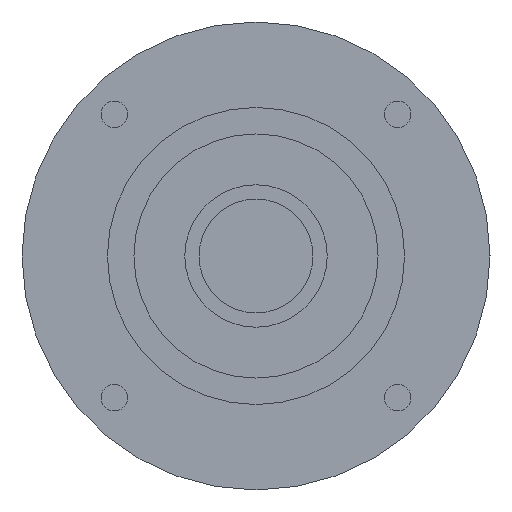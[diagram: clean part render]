
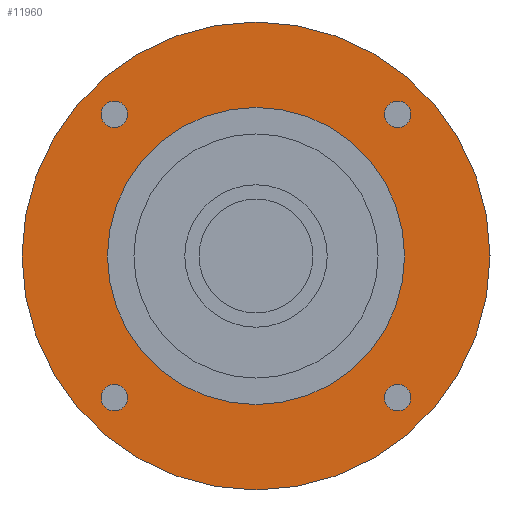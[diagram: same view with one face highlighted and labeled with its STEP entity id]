
A CAD part, left-side view. The second image highlights one B-rep face of the part: STEP entity #11960.
In plain terms, the highlighted planar face has unit normal (-1, 0, 0) as drawn and (0, 0, -1) by its records, which use the part's own axes.
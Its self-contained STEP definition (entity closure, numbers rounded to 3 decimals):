
#10800=CARTESIAN_POINT('',(-57.5,0.,-65.601));
#10810=VERTEX_POINT('',#10800);
#10840=CARTESIAN_POINT('',(0.,0.,
-65.601));
#10850=DIRECTION('',(0.,0.,-1.));
#10860=DIRECTION('',(0.,-1.,0.));
#10870=AXIS2_PLACEMENT_3D('',#10840,#10850,#10860);
#10880=CIRCLE('',#10870,57.5);
#10890=CARTESIAN_POINT('',(57.5,0.,-65.601));
#10900=VERTEX_POINT('',#10890);
#10910=EDGE_CURVE('',#10810,#10900,#10880,.T.);
#11030=CARTESIAN_POINT('',(0.,0.,
-65.601));
#11040=DIRECTION('',(0.,0.,-1.));
#11050=DIRECTION('',(1.,0.,0.));
#11060=AXIS2_PLACEMENT_3D('',#11030,#11040,#11050);
#11070=PLANE('',#11060);
#11080=CARTESIAN_POINT('',(34.797,34.797,-65.601));
#11090=DIRECTION('',(0.,0.,-1.));
#11100=DIRECTION('',(0.,1.,0.));
#11110=AXIS2_PLACEMENT_3D('',#11080,#11090,#11100);
#11120=CIRCLE('',#11110,3.25);
#11130=CARTESIAN_POINT('',(34.797,38.047,-65.601));
#11140=VERTEX_POINT('',#11130);
#11150=CARTESIAN_POINT('',(34.797,31.547,-65.601));
#11160=VERTEX_POINT('',#11150);
#11170=EDGE_CURVE('',#11140,#11160,#11120,.T.);
#11180=ORIENTED_EDGE('',*,*,#11170,.F.);
#11190=EDGE_CURVE('',#11160,#11140,#11120,.T.);
#11200=ORIENTED_EDGE('',*,*,#11190,.F.);
#11210=EDGE_LOOP('',(#11200,#11180));
#11220=FACE_BOUND('',#11210,.T.);
#11230=CARTESIAN_POINT('',(-34.797,34.797,-65.601));
#11240=DIRECTION('',(0.,0.,-1.));
#11250=DIRECTION('',(-1.,0.,0.));
#11260=AXIS2_PLACEMENT_3D('',#11230,#11240,#11250);
#11270=CIRCLE('',#11260,3.25);
#11280=CARTESIAN_POINT('',(-38.047,34.797,-65.601));
#11290=VERTEX_POINT('',#11280);
#11300=CARTESIAN_POINT('',(-31.547,34.797,-65.601));
#11310=VERTEX_POINT('',#11300);
#11320=EDGE_CURVE('',#11290,#11310,#11270,.T.);
#11330=ORIENTED_EDGE('',*,*,#11320,.F.);
#11340=EDGE_CURVE('',#11310,#11290,#11270,.T.);
#11350=ORIENTED_EDGE('',*,*,#11340,.F.);
#11360=EDGE_LOOP('',(#11350,#11330));
#11370=FACE_BOUND('',#11360,.T.);
#11380=CARTESIAN_POINT('',(-34.797,-34.797,-65.601));
#11390=DIRECTION('',(0.,0.,-1.));
#11400=DIRECTION('',(0.,-1.,0.));
#11410=AXIS2_PLACEMENT_3D('',#11380,#11390,#11400);
#11420=CIRCLE('',#11410,3.25);
#11430=CARTESIAN_POINT('',(-34.797,-38.047,-65.601));
#11440=VERTEX_POINT('',#11430);
#11450=CARTESIAN_POINT('',(-34.797,-31.547,-65.601));
#11460=VERTEX_POINT('',#11450);
#11470=EDGE_CURVE('',#11440,#11460,#11420,.T.);
#11480=ORIENTED_EDGE('',*,*,#11470,.F.);
#11490=EDGE_CURVE('',#11460,#11440,#11420,.T.);
#11500=ORIENTED_EDGE('',*,*,#11490,.F.);
#11510=EDGE_LOOP('',(#11500,#11480));
#11520=FACE_BOUND('',#11510,.T.);
#11530=CARTESIAN_POINT('',(0.,0.,
-65.601));
#11540=DIRECTION('',(0.,0.,1.));
#11550=DIRECTION('',(0.,1.,0.));
#11560=AXIS2_PLACEMENT_3D('',#11530,#11540,#11550);
#11570=CIRCLE('',#11560,36.51);
#11580=CARTESIAN_POINT('',(-36.51,0.,-65.601));
#11590=VERTEX_POINT('',#11580);
#11600=CARTESIAN_POINT('',(36.51,0.,-65.601));
#11610=VERTEX_POINT('',#11600);
#11620=EDGE_CURVE('',#11590,#11610,#11570,.T.);
#11630=ORIENTED_EDGE('',*,*,#11620,.T.);
#11640=CARTESIAN_POINT('',(0.,36.51,-65.601));
#11650=VERTEX_POINT('',#11640);
#11660=EDGE_CURVE('',#11650,#11590,#11570,.T.);
#11670=ORIENTED_EDGE('',*,*,#11660,.T.);
#11680=EDGE_CURVE('',#11610,#11650,#11570,.T.);
#11690=ORIENTED_EDGE('',*,*,#11680,.T.);
#11700=EDGE_LOOP('',(#11690,#11670,#11630));
#11710=FACE_BOUND('',#11700,.T.);
#11720=CARTESIAN_POINT('',(34.797,-34.797,-65.601));
#11730=DIRECTION('',(0.,0.,-1.));
#11740=DIRECTION('',(1.,0.,0.));
#11750=AXIS2_PLACEMENT_3D('',#11720,#11730,#11740);
#11760=CIRCLE('',#11750,3.25);
#11770=CARTESIAN_POINT('',(38.047,-34.797,-65.601));
#11780=VERTEX_POINT('',#11770);
#11790=CARTESIAN_POINT('',(31.547,-34.797,-65.601));
#11800=VERTEX_POINT('',#11790);
#11810=EDGE_CURVE('',#11780,#11800,#11760,.T.);
#11820=ORIENTED_EDGE('',*,*,#11810,.F.);
#11830=EDGE_CURVE('',#11800,#11780,#11760,.T.);
#11840=ORIENTED_EDGE('',*,*,#11830,.F.);
#11850=EDGE_LOOP('',(#11840,#11820));
#11860=FACE_BOUND('',#11850,.T.);
#11870=ORIENTED_EDGE('',*,*,#10910,.T.);
#11880=CARTESIAN_POINT('',(0.,-57.5,-65.601));
#11890=VERTEX_POINT('',#11880);
#11900=EDGE_CURVE('',#11890,#10810,#10880,.T.);
#11910=ORIENTED_EDGE('',*,*,#11900,.T.);
#11920=EDGE_CURVE('',#10900,#11890,#10880,.T.);
#11930=ORIENTED_EDGE('',*,*,#11920,.T.);
#11940=EDGE_LOOP('',(#11930,#11910,#11870));
#11950=FACE_OUTER_BOUND('',#11940,.T.);
#11960=ADVANCED_FACE('',(#11220,#11370,#11520,#11710,#11860,#11950),
#11070,.T.);
